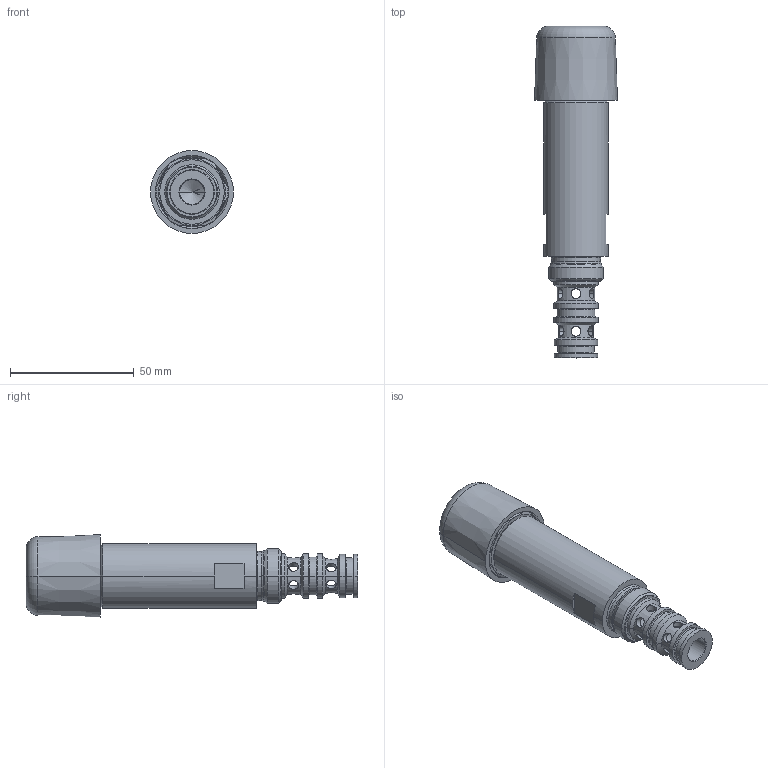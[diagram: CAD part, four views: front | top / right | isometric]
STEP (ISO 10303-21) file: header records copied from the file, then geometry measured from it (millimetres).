
FILE_DESCRIPTION((''),'2;1');
FILE_NAME('VRN2_06','2011-03-14T',('tvatras'),(''),'PRO/ENGINEER BY PARAMETRIC TECHNOLOGY CORPORATION, 2010180','PRO/ENGINEER BY PARAMETRIC TECHNOLOGY CORPORATION, 2010180','');
FILE_SCHEMA(('CONFIG_CONTROL_DESIGN'));
Length unit declared in the file: millimetre
Products named in the file (1): VRN2_06
Bounding box: 33.5 x 134 x 33.5 mm (x, y, z)
Volume: 50913.5 mm3; surface area: 18391.5 mm2
Topology: 2 solids, 3 shells, 177 faces, 467 edges, 302 vertices
Faces by surface type: cylinder 72, cone 44, plane 37, torus 24
Entity records: 6431 total; most frequent: CARTESIAN_POINT 2001, ORIENTED_EDGE 920, DIRECTION 915, EDGE_CURVE 462, AXIS2_PLACEMENT_3D 385, VERTEX_POINT 300, EDGE_LOOP 214, CIRCLE 206
